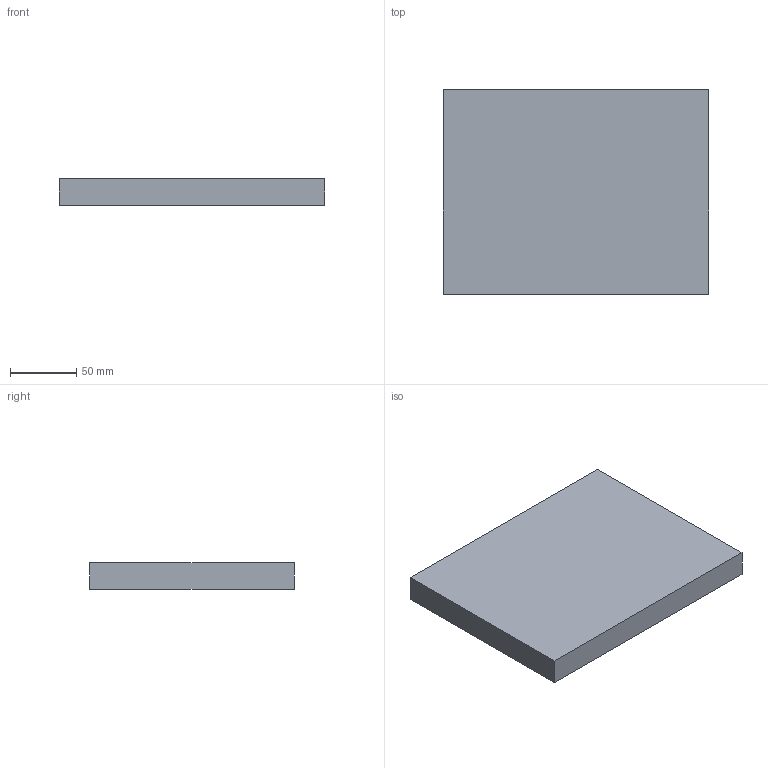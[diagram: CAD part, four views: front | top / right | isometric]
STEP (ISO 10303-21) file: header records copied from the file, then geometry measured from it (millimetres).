
FILE_DESCRIPTION(('Open CASCADE Model'),'2;1');
FILE_NAME('Open CASCADE Shape Model','2026-09-19T12:55:12',('Author'),( 'Open CASCADE'),'Open CASCADE STEP processor 7.9','Open CASCADE 7.9' ,'Unknown');
FILE_SCHEMA(('AUTOMOTIVE_DESIGN { 1 0 10303 214 1 1 1 1 }'));
Length unit declared in the file: millimetre
Products named in the file (1): Open CASCADE STEP translator 7.9 48
Bounding box: 200 x 154 x 20 mm (x, y, z)
Volume: 616000 mm3; surface area: 75760 mm2
Topology: 1 solids, 1 shells, 6 faces, 12 edges, 8 vertices
Faces by surface type: plane 6
Entity records: 322 total; most frequent: CARTESIAN_POINT 51, DIRECTION 50, LINE 36, VECTOR 36, ORIENTED_EDGE 24, PCURVE 24, DEFINITIONAL_REPRESENTATION 24, EDGE_CURVE 12
